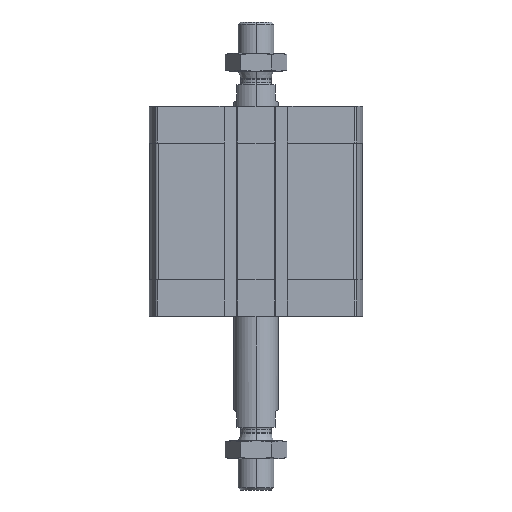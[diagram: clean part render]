
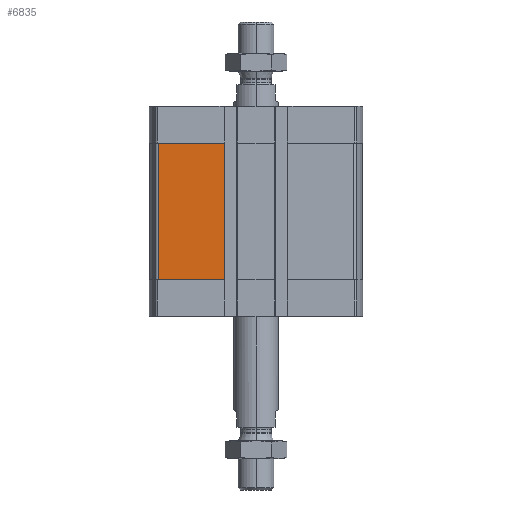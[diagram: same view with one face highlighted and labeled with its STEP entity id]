
A CAD part, left-side view. The second image highlights one B-rep face of the part: STEP entity #6835.
In plain terms, the highlighted planar face has unit normal (-1, 0, 0).
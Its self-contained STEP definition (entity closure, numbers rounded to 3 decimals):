
#1129 = CARTESIAN_POINT ( 'NONE',  ( -47.5, 14.3, -16.5 ) ) ;
#1544 = FACE_OUTER_BOUND ( 'NONE', #5529, .T. ) ;
#1862 = VERTEX_POINT ( 'NONE', #17607 ) ;
#2120 = CARTESIAN_POINT ( 'NONE',  ( -47.5, 43.743, -77.5 ) ) ;
#2884 = ORIENTED_EDGE ( 'NONE', *, *, #9896, .F. ) ;
#2976 = CARTESIAN_POINT ( 'NONE',  ( -47.5, 14.3, -77.5 ) ) ;
#3560 = LINE ( 'NONE', #2120, #17403 ) ;
#3953 = VECTOR ( 'NONE', #9610, 1000. ) ;
#4129 = CARTESIAN_POINT ( 'NONE',  ( -47.5, 14.3, -77.5 ) ) ;
#5529 = EDGE_LOOP ( 'NONE', ( #2884, #11056, #10148, #15611 ) ) ;
#5744 = LINE ( 'NONE', #8527, #12495 ) ;
#5859 = DIRECTION ( 'NONE',  ( -1., 0., 0. ) ) ;
#6065 = EDGE_CURVE ( 'NONE', #1862, #6881, #3560, .T. ) ;
#6110 = VERTEX_POINT ( 'NONE', #1129 ) ;
#6408 = VECTOR ( 'NONE', #8786, 1000. ) ;
#6835 = ADVANCED_FACE ( 'NONE', ( #1544 ), #11430, .T. ) ;
#6881 = VERTEX_POINT ( 'NONE', #2976 ) ;
#8527 = CARTESIAN_POINT ( 'NONE',  ( -47.5, 43.743, -77.5 ) ) ;
#8605 = LINE ( 'NONE', #15526, #6408 ) ;
#8743 = CARTESIAN_POINT ( 'NONE',  ( -47.5, 43.743, -77.5 ) ) ;
#8786 = DIRECTION ( 'NONE',  ( 0., -1., 0. ) ) ;
#9521 = LINE ( 'NONE', #4129, #3953 ) ;
#9610 = DIRECTION ( 'NONE',  ( 0., 0., 1. ) ) ;
#9896 = EDGE_CURVE ( 'NONE', #12897, #6110, #8605, .T. ) ;
#10148 = ORIENTED_EDGE ( 'NONE', *, *, #6065, .T. ) ;
#10654 = DIRECTION ( 'NONE',  ( 0., -1., 0. ) ) ;
#10954 = DIRECTION ( 'NONE',  ( 0., 0., 1. ) ) ;
#11056 = ORIENTED_EDGE ( 'NONE', *, *, #14728, .F. ) ;
#11430 = PLANE ( 'NONE',  #17778 ) ;
#12429 = CARTESIAN_POINT ( 'NONE',  ( -47.5, 43.743, -16.5 ) ) ;
#12495 = VECTOR ( 'NONE', #10954, 1000. ) ;
#12872 = DIRECTION ( 'NONE',  ( 0., 0., 1. ) ) ;
#12897 = VERTEX_POINT ( 'NONE', #12429 ) ;
#14728 = EDGE_CURVE ( 'NONE', #1862, #12897, #5744, .T. ) ;
#15526 = CARTESIAN_POINT ( 'NONE',  ( -47.5, 43.743, -16.5 ) ) ;
#15611 = ORIENTED_EDGE ( 'NONE', *, *, #17540, .T. ) ;
#17403 = VECTOR ( 'NONE', #10654, 1000. ) ;
#17540 = EDGE_CURVE ( 'NONE', #6881, #6110, #9521, .T. ) ;
#17607 = CARTESIAN_POINT ( 'NONE',  ( -47.5, 43.743, -77.5 ) ) ;
#17778 = AXIS2_PLACEMENT_3D ( 'NONE', #8743, #5859, #12872 ) ;
